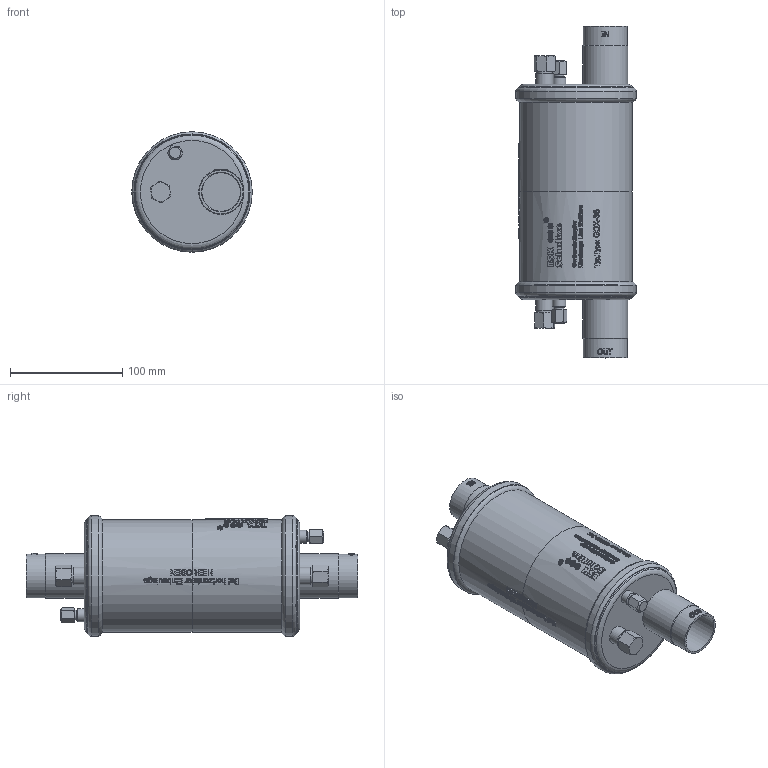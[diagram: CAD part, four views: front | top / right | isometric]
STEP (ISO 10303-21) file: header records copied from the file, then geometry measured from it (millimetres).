
FILE_DESCRIPTION(/* description */ (''),/* implementation_level */ '2;1');
FILE_NAME(/* name */ 'P:\GD\GDX-35\GDX-35.stp',/* time_stamp */ '2017-10-05T08:32:35+02:00',/* author */ ('neufeld'),/* organization */ (''),/* preprocessor_version */ 'ST-DEVELOPER v16.1',/* originating_system */ 'Autodesk Inventor 2016',/* authorisation */ '');
FILE_SCHEMA (('AUTOMOTIVE_DESIGN { 1 0 10303 214 3 1 1 }'));
Products named in the file (2): GDX-35; GDX-35_1
Assembly tree (1 placements, depth 2):
  GDX-35_1
    GDX-35
Bounding box: 107.5 x 296 x 107.5 mm (x, y, z)
Volume: 1630723.6 mm3; surface area: 103744.2 mm2
Topology: 1 solids, 1 shells, 1787 faces, 4810 edges, 3190 vertices
Faces by surface type: plane 895, bspline 667, cylinder 171, cone 44, torus 10
Full cylindrical faces by diameter (mm): 8.9 x2, 12 x2, 13.8 x2, 14.5 x2, 16 x2, 35.2 x2, 39 x2, 40 x2, 100 x2, 107.5 x2
Entity records: 69197 total; most frequent: CARTESIAN_POINT 28226, ORIENTED_EDGE 9496, DIRECTION 6790, EDGE_CURVE 4748, VERTEX_POINT 3178, AXIS2_PLACEMENT_3D 2325, LINE 2140, VECTOR 2140
